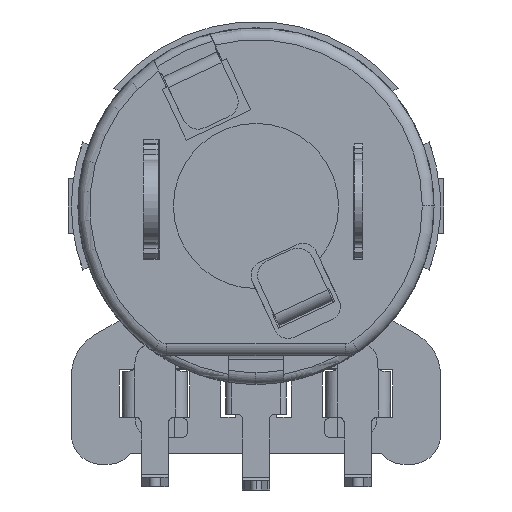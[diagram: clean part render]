
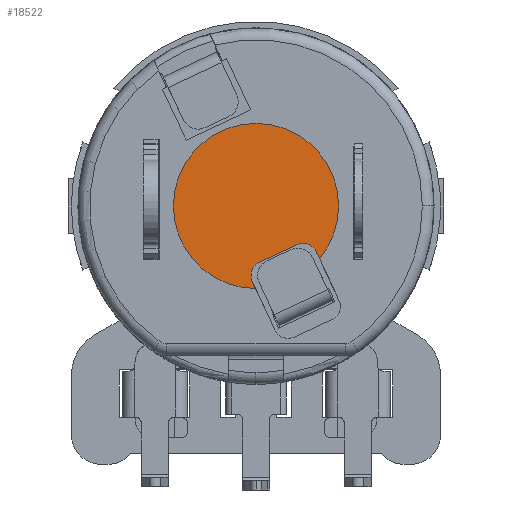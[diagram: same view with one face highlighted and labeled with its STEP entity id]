
A CAD part, front view. The second image highlights one B-rep face of the part: STEP entity #18522.
In plain terms, the highlighted planar face has unit normal (0, -1, 0) as drawn and (0, 0, 1) by its records, which use the part's own axes.
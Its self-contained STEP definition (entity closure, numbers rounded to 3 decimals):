
#245 = DIRECTION ( 'NONE',  ( 0., 0., -1. ) ) ;
#420 = EDGE_CURVE ( 'NONE', #6236, #22060, #819, .T. ) ;
#546 = VERTEX_POINT ( 'NONE', #13199 ) ;
#819 = CIRCLE ( 'NONE', #12505, 3.556 ) ;
#1452 = DIRECTION ( 'NONE',  ( 0., 0., 1. ) ) ;
#1743 = DIRECTION ( 'NONE',  ( 1., 0., 0. ) ) ;
#1832 = LINE ( 'NONE', #12799, #8174 ) ;
#2287 = AXIS2_PLACEMENT_3D ( 'NONE', #20885, #2828, #5603 ) ;
#2761 = EDGE_CURVE ( 'NONE', #22060, #15048, #9238, .T. ) ;
#2828 = DIRECTION ( 'NONE',  ( 0., 0., 1. ) ) ;
#3404 = DIRECTION ( 'NONE',  ( 1., 0., 0. ) ) ;
#3942 = AXIS2_PLACEMENT_3D ( 'NONE', #24743, #245, #16159 ) ;
#4087 = ORIENTED_EDGE ( 'NONE', *, *, #6902, .T. ) ;
#4819 = VECTOR ( 'NONE', #15285, 1000. ) ;
#5150 = ORIENTED_EDGE ( 'NONE', *, *, #19053, .T. ) ;
#5329 = LINE ( 'NONE', #10121, #18367 ) ;
#5603 = DIRECTION ( 'NONE',  ( 1., 0., 0. ) ) ;
#5792 = ORIENTED_EDGE ( 'NONE', *, *, #22954, .T. ) ;
#6109 = ORIENTED_EDGE ( 'NONE', *, *, #21621, .T. ) ;
#6236 = VERTEX_POINT ( 'NONE', #21965 ) ;
#6902 = EDGE_CURVE ( 'NONE', #26936, #6236, #17277, .T. ) ;
#7281 = EDGE_LOOP ( 'NONE', ( #20725, #4087, #24659, #10679, #5792, #6109, #5150, #22942 ) ) ;
#7485 = CIRCLE ( 'NONE', #23742, 0.635 ) ;
#7705 = DIRECTION ( 'NONE',  ( 1., 0., 0. ) ) ;
#7860 = CARTESIAN_POINT ( 'NONE',  ( -0.023, -3.556, -0.01 ) ) ;
#8062 = VERTEX_POINT ( 'NONE', #14505 ) ;
#8174 = VECTOR ( 'NONE', #23708, 1000. ) ;
#8714 = LINE ( 'NONE', #22397, #4819 ) ;
#9238 = CIRCLE ( 'NONE', #25501, 3.556 ) ;
#10121 = CARTESIAN_POINT ( 'NONE',  ( 2.605, -1.98, -0.01 ) ) ;
#10168 = DIRECTION ( 'NONE',  ( 0., 0., 1. ) ) ;
#10679 = ORIENTED_EDGE ( 'NONE', *, *, #2761, .T. ) ;
#12505 = AXIS2_PLACEMENT_3D ( 'NONE', #16309, #25171, #24889 ) ;
#12799 = CARTESIAN_POINT ( 'NONE',  ( -0.157, -3.268, -0.01 ) ) ;
#13199 = CARTESIAN_POINT ( 'NONE',  ( 2.605, -1.98, -0.01 ) ) ;
#13411 = AXIS2_PLACEMENT_3D ( 'NONE', #21561, #1452, #1743 ) ;
#13508 = VERTEX_POINT ( 'NONE', #24481 ) ;
#14505 = CARTESIAN_POINT ( 'NONE',  ( -0.157, -3.268, -0.01 ) ) ;
#14506 = CARTESIAN_POINT ( 'NONE',  ( 2.029, -2.249, -0.01 ) ) ;
#14513 = CARTESIAN_POINT ( 'NONE',  ( -3.556, 0., -0.01 ) ) ;
#15048 = VERTEX_POINT ( 'NONE', #7860 ) ;
#15285 = DIRECTION ( 'NONE',  ( 0.906, 0.423, 0. ) ) ;
#15685 = VERTEX_POINT ( 'NONE', #20322 ) ;
#15745 = EDGE_CURVE ( 'NONE', #15685, #546, #7485, .T. ) ;
#16159 = DIRECTION ( 'NONE',  ( 1., 0., 0. ) ) ;
#16309 = CARTESIAN_POINT ( 'NONE',  ( 0., 0., -0.01 ) ) ;
#17277 = CIRCLE ( 'NONE', #2287, 3.556 ) ;
#18367 = VECTOR ( 'NONE', #21041, 1000. ) ;
#18522 = ADVANCED_FACE ( 'NONE', ( #21703 ), #28539, .T. ) ;
#18777 = CARTESIAN_POINT ( 'NONE',  ( 0., 0., -0.01 ) ) ;
#19053 = EDGE_CURVE ( 'NONE', #13508, #15685, #8714, .T. ) ;
#19280 = DIRECTION ( 'NONE',  ( 0., 0., -1. ) ) ;
#20322 = CARTESIAN_POINT ( 'NONE',  ( 1.761, -1.673, -0.01 ) ) ;
#20725 = ORIENTED_EDGE ( 'NONE', *, *, #22011, .T. ) ;
#20885 = CARTESIAN_POINT ( 'NONE',  ( 0., 0., -0.01 ) ) ;
#21041 = DIRECTION ( 'NONE',  ( 0.423, -0.906, 0. ) ) ;
#21295 = CARTESIAN_POINT ( 'NONE',  ( 2.739, -2.268, -0.01 ) ) ;
#21561 = CARTESIAN_POINT ( 'NONE',  ( 0., 0., -0.01 ) ) ;
#21621 = EDGE_CURVE ( 'NONE', #8062, #13508, #25338, .T. ) ;
#21703 = FACE_OUTER_BOUND ( 'NONE', #7281, .T. ) ;
#21965 = CARTESIAN_POINT ( 'NONE',  ( 3.556, 0., -0.01 ) ) ;
#22011 = EDGE_CURVE ( 'NONE', #546, #26936, #5329, .T. ) ;
#22060 = VERTEX_POINT ( 'NONE', #14513 ) ;
#22397 = CARTESIAN_POINT ( 'NONE',  ( 1.761, -1.673, -0.01 ) ) ;
#22942 = ORIENTED_EDGE ( 'NONE', *, *, #15745, .T. ) ;
#22954 = EDGE_CURVE ( 'NONE', #15048, #8062, #1832, .T. ) ;
#23708 = DIRECTION ( 'NONE',  ( -0.423, 0.906, 0. ) ) ;
#23742 = AXIS2_PLACEMENT_3D ( 'NONE', #14506, #19280, #3404 ) ;
#24481 = CARTESIAN_POINT ( 'NONE',  ( 0.15, -2.425, -0.01 ) ) ;
#24659 = ORIENTED_EDGE ( 'NONE', *, *, #420, .T. ) ;
#24743 = CARTESIAN_POINT ( 'NONE',  ( 0.418, -3., -0.01 ) ) ;
#24889 = DIRECTION ( 'NONE',  ( 1., 0., 0. ) ) ;
#25171 = DIRECTION ( 'NONE',  ( 0., 0., 1. ) ) ;
#25338 = CIRCLE ( 'NONE', #3942, 0.635 ) ;
#25501 = AXIS2_PLACEMENT_3D ( 'NONE', #18777, #10168, #7705 ) ;
#26936 = VERTEX_POINT ( 'NONE', #21295 ) ;
#28539 = PLANE ( 'NONE',  #13411 ) ;
